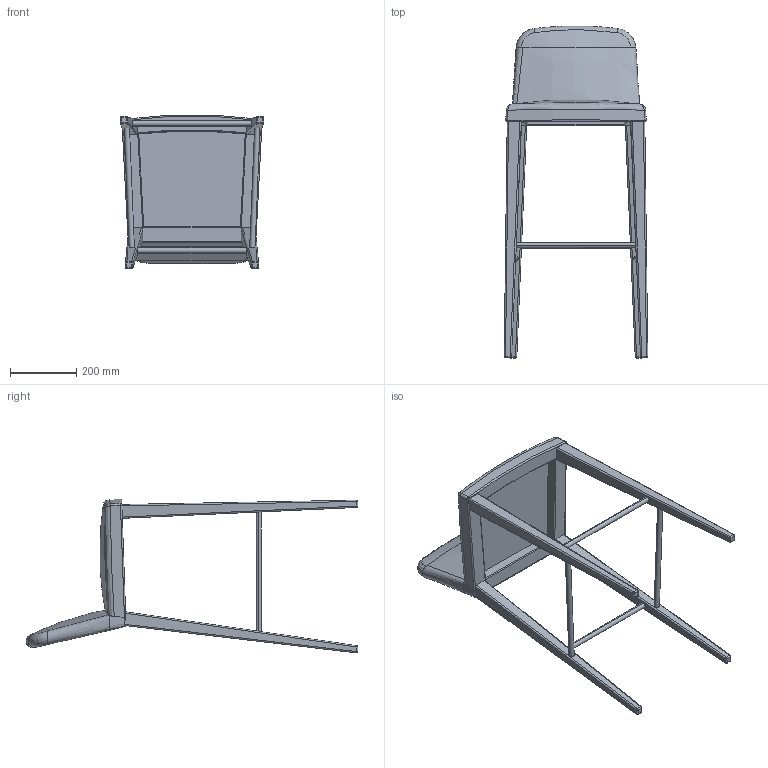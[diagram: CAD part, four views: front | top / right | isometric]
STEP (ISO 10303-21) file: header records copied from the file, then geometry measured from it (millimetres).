
FILE_DESCRIPTION (( 'STEP AP214' ), '1' );
FILE_NAME ('casia taburete.STEP', '2020-02-07T12:10:37', ( '' ), ( '' ), 'SwSTEP 2.0', 'SolidWorks 2015', '' );
FILE_SCHEMA (( 'AUTOMOTIVE_DESIGN' ));
Length unit declared in the file: millimetre
Products named in the file (2): casia taburete
Bounding box: 433.89 x 1002.84 x 464.65 mm (x, y, z)
Volume: 14594546.5 mm3; surface area: 1025727.8 mm2
Topology: 9 solids, 9 shells, 142 faces, 334 edges, 193 vertices
Faces by surface type: cylinder 39, bspline 38, plane 34, sphere 24, torus 4, cone 3
Entity records: 39088 total; most frequent: CARTESIAN_POINT 36191, ORIENTED_EDGE 632, DIRECTION 480, EDGE_CURVE 316, AXIS2_PLACEMENT_3D 197, VERTEX_POINT 193, EDGE_LOOP 143, FACE_OUTER_BOUND 142
